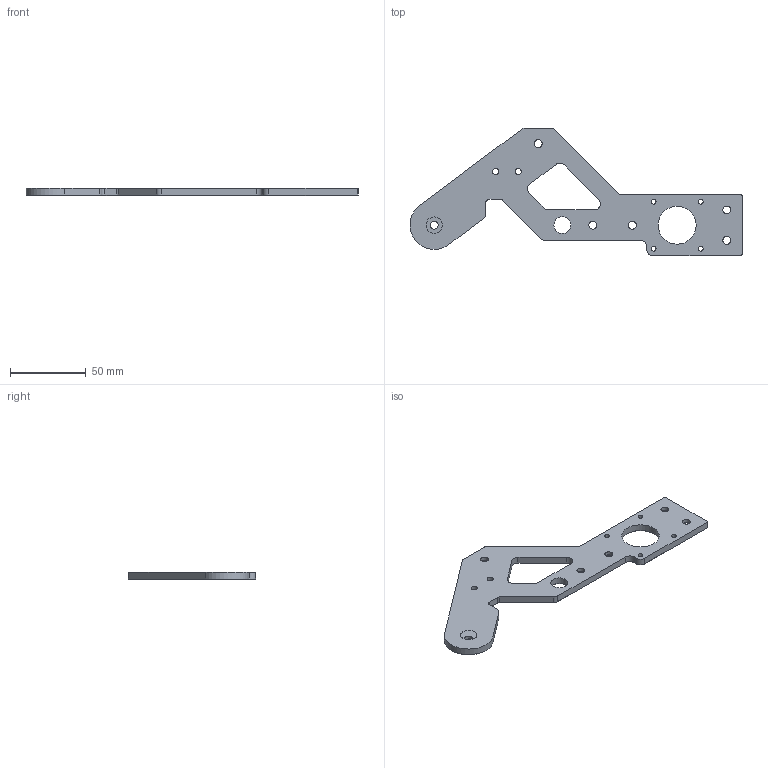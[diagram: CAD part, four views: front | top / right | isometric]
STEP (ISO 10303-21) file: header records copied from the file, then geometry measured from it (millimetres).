
FILE_DESCRIPTION(/* description */ (''),/* implementation_level */ '2;1');
FILE_NAME(/* name */ 'Camera-R-side-plate-final.step',/* time_stamp */ '2025-06-23T21:33:55-04:00',/* author */ (''),/* organization */ (''),/* preprocessor_version */ 'ST-DEVELOPER v20.1',/* originating_system */ 'Autodesk Translation Framework v14.10.0.0',/* authorisation */ '');
FILE_SCHEMA (('AUTOMOTIVE_DESIGN { 1 0 10303 214 3 1 1 }'));
Length unit declared in the file: millimetre
Products named in the file (1): Camera-R-side-plate
Bounding box: 218.55 x 83.66 x 5 mm (x, y, z)
Volume: 38204.4 mm3; surface area: 20066.4 mm2
Topology: 1 solids, 1 shells, 95 faces, 241 edges, 149 vertices
Faces by surface type: plane 37, cylinder 32, cone 26
Full cylindrical faces by diameter (mm): 3.2 x4, 4.1 x2, 5.2 x6, 11 x1, 25 x1
Entity records: 2952 total; most frequent: DIRECTION 530, CARTESIAN_POINT 486, ORIENTED_EDGE 482, EDGE_CURVE 241, AXIS2_PLACEMENT_3D 193, VERTEX_POINT 149, LINE 144, VECTOR 144
